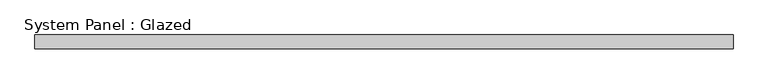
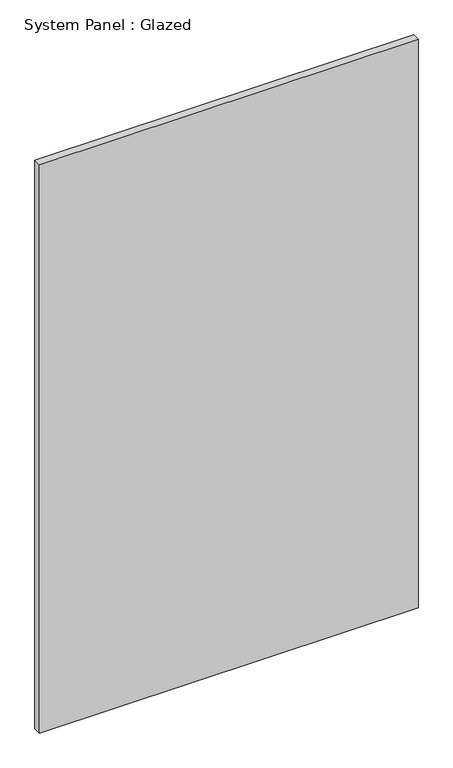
"""IFC4 building model written with IfcOpenShell, lengths in millimetres: plate geometry, System Panel : Glazed."""

from ifc_helpers import new_model, si_unit, origin, origin_with_axes, place, context, project, spatial, polyline, outline, extrude, source, transform, mapped, element, save


def system_panel_glazed_59e3bf6d(model_context):
    return source(origin(), model_context, "Body", "SweptSolid", [
        extrude(outline(polyline([(632.7777778, -49.5), (-632.7777778, -49.5), (-632.7777778, -24.5), (632.7777778, -24.5), (632.7777778, -49.5)])), origin_with_axes(), (0.0, 0.0, 1.0), 2008.0),
    ])


if __name__ == "__main__":
    model = new_model("IFC4")
    model_context = context("Model", 3, world=origin())
    ifc_project = project(units=[si_unit("LENGTHUNIT", "METRE", prefix="MILLI")], contexts=[model_context])
    site = spatial("IfcSite", under=ifc_project)
    building = spatial("IfcBuilding", under=site)
    placement = place(None, origin())
    system_panel_glazed_shape = system_panel_glazed_59e3bf6d(model_context)
    element("IfcPlate", 1, ObjectType="System Panel : Glazed", at=placement, inside=building, context=model_context, shape_type="MappedRepresentation", body=[
        mapped(system_panel_glazed_shape, transform((0.0, 0.0, 0.0), x_axis=(1.0, 0.0, 0.0), y_axis=(0.0, 1.0, 0.0), z_axis=(0.0, 0.0, 1.0))),
    ])
    save(model, "model.ifc")
